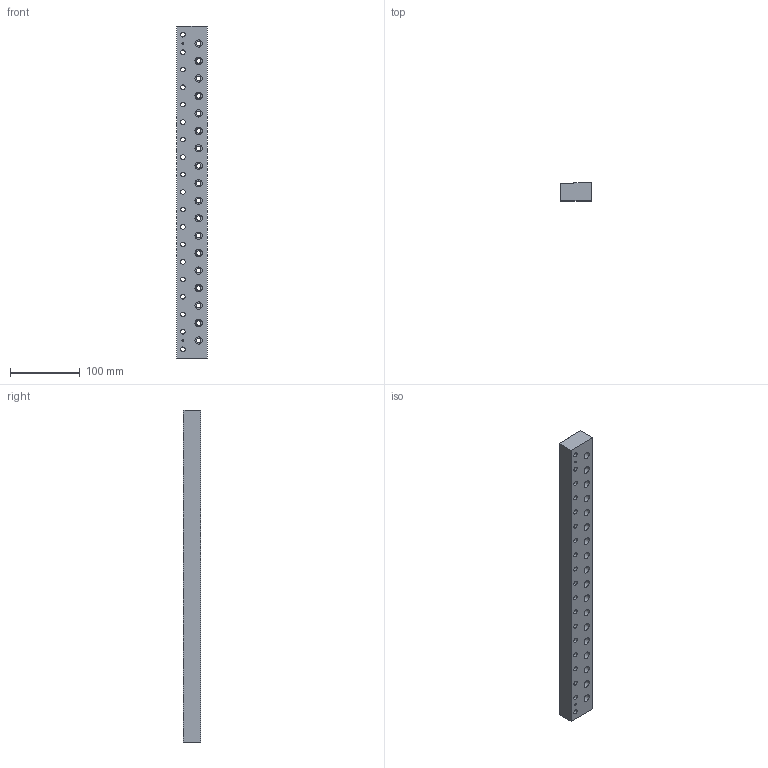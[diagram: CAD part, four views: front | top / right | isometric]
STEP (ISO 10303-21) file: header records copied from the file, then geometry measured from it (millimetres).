
FILE_DESCRIPTION(/* description */ (''),/* implementation_level */ '2;1');
FILE_NAME(/* name */ 'C:\Users\strothej\Documents\ActualDocuments\MicroscopeParts\TwoPhotonSystem\ScanningMechanics\v34\Drawings\Support_Pivot_Bracket.stp',/* time_stamp */ '2017-09-22T10:44:15-07:00',/* author */ ('strothej'),/* organization */ (''),/* preprocessor_version */ 'ST-DEVELOPER v16.1',/* originating_system */ 'Autodesk Inventor 2016',/* authorisation */ '');
FILE_SCHEMA (('AUTOMOTIVE_DESIGN { 1 0 10303 214 3 1 1 }'));
Length unit declared in the file: millimetre
Products named in the file (1): Support_Pivot_Bracket
Bounding box: 44 x 25 x 475 mm (x, y, z)
Volume: 468382.7 mm3; surface area: 87544.5 mm2
Topology: 1 solids, 1 shells, 127 faces, 279 edges, 191 vertices
Faces by surface type: cylinder 78, plane 45, cone 4
Full cylindrical faces by diameter (mm): 3 x4, 6.5 x37, 10.5 x37
Entity records: 3144 total; most frequent: DIRECTION 586, CARTESIAN_POINT 470, ORIENTED_EDGE 348, EDGE_LOOP 320, AXIS2_PLACEMENT_3D 284, FACE_BOUND 193, EDGE_CURVE 174, VERTEX_POINT 168
